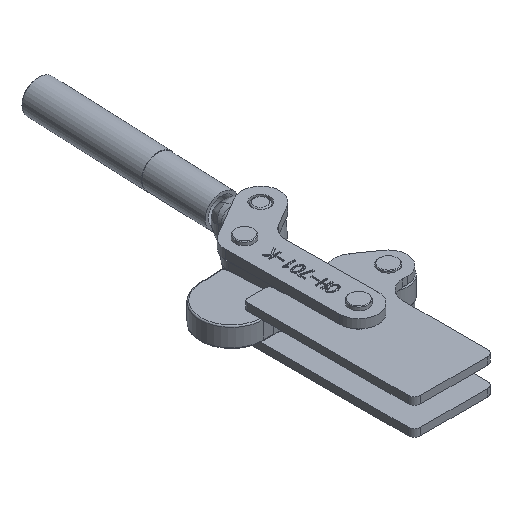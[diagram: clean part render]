
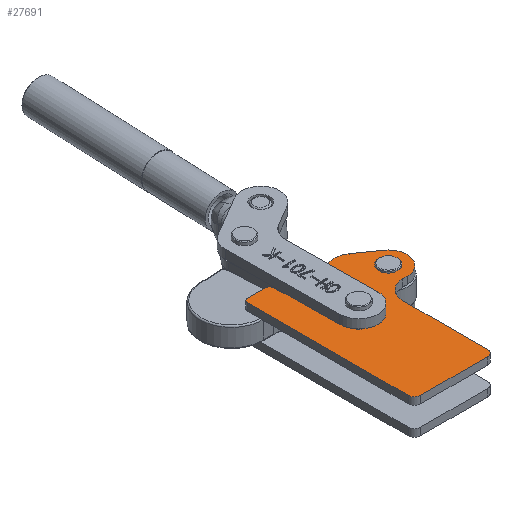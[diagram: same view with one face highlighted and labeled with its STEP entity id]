
A CAD part, isometric view. The second image highlights one B-rep face of the part: STEP entity #27691.
In plain terms, the highlighted planar face has unit normal (0, 0, 1).
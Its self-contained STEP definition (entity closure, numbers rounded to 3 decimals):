
#380=FACE_BOUND('',#4563,.T.);
#381=FACE_BOUND('',#4564,.T.);
#1243=PLANE('',#30742);
#3094=FACE_OUTER_BOUND('',#4562,.T.);
#4562=EDGE_LOOP('',(#26077,#26078,#26079,#26080,#26081,#26082,#26083,#26084,
#26085,#26086,#26087,#26088,#26089,#26090,#26091));
#4563=EDGE_LOOP('',(#26092,#26093));
#4564=EDGE_LOOP('',(#26094,#26095));
#7114=LINE('',#51165,#9682);
#7115=LINE('',#51171,#9683);
#7116=LINE('',#51175,#9684);
#7117=LINE('',#51179,#9685);
#7118=LINE('',#51183,#9686);
#7119=LINE('',#51187,#9687);
#7120=LINE('',#51190,#9688);
#9682=VECTOR('',#38890,1000.);
#9683=VECTOR('',#38895,1000.);
#9684=VECTOR('',#38898,1000.);
#9685=VECTOR('',#38901,1000.);
#9686=VECTOR('',#38904,1000.);
#9687=VECTOR('',#38907,1000.);
#9688=VECTOR('',#38910,1000.);
#11143=CIRCLE('',#30733,6.25);
#11146=CIRCLE('',#30736,6.25);
#11147=CIRCLE('',#30738,8.5);
#11150=CIRCLE('',#30741,8.5);
#11151=CIRCLE('',#30743,15.024);
#11152=CIRCLE('',#30744,16.024);
#11153=CIRCLE('',#30745,16.);
#11154=CIRCLE('',#30746,3.);
#11155=CIRCLE('',#30747,3.);
#11156=CIRCLE('',#30748,5.);
#11157=CIRCLE('',#30749,5.);
#11158=CIRCLE('',#30750,15.);
#13876=VERTEX_POINT('',#51141);
#13877=VERTEX_POINT('',#51142);
#13880=VERTEX_POINT('',#51151);
#13881=VERTEX_POINT('',#51152);
#13884=VERTEX_POINT('',#51161);
#13885=VERTEX_POINT('',#51162);
#13886=VERTEX_POINT('',#51164);
#13887=VERTEX_POINT('',#51166);
#13888=VERTEX_POINT('',#51168);
#13889=VERTEX_POINT('',#51170);
#13890=VERTEX_POINT('',#51172);
#13891=VERTEX_POINT('',#51174);
#13892=VERTEX_POINT('',#51176);
#13893=VERTEX_POINT('',#51178);
#13894=VERTEX_POINT('',#51180);
#13895=VERTEX_POINT('',#51182);
#13896=VERTEX_POINT('',#51184);
#13897=VERTEX_POINT('',#51186);
#13898=VERTEX_POINT('',#51188);
#17953=EDGE_CURVE('',#13876,#13877,#11143,.T.);
#17957=EDGE_CURVE('',#13877,#13876,#11146,.T.);
#17958=EDGE_CURVE('',#13880,#13881,#11147,.T.);
#17962=EDGE_CURVE('',#13881,#13880,#11150,.T.);
#17963=EDGE_CURVE('',#13884,#13885,#11151,.T.);
#17964=EDGE_CURVE('',#13885,#13886,#7114,.T.);
#17965=EDGE_CURVE('',#13886,#13887,#11152,.T.);
#17966=EDGE_CURVE('',#13887,#13888,#11153,.T.);
#17967=EDGE_CURVE('',#13888,#13889,#7115,.T.);
#17968=EDGE_CURVE('',#13889,#13890,#11154,.T.);
#17969=EDGE_CURVE('',#13890,#13891,#7116,.T.);
#17970=EDGE_CURVE('',#13891,#13892,#11155,.T.);
#17971=EDGE_CURVE('',#13892,#13893,#7117,.T.);
#17972=EDGE_CURVE('',#13893,#13894,#11156,.T.);
#17973=EDGE_CURVE('',#13894,#13895,#7118,.T.);
#17974=EDGE_CURVE('',#13895,#13896,#11157,.T.);
#17975=EDGE_CURVE('',#13896,#13897,#7119,.T.);
#17976=EDGE_CURVE('',#13897,#13898,#11158,.T.);
#17977=EDGE_CURVE('',#13898,#13884,#7120,.T.);
#26077=ORIENTED_EDGE('',*,*,#17963,.T.);
#26078=ORIENTED_EDGE('',*,*,#17964,.T.);
#26079=ORIENTED_EDGE('',*,*,#17965,.T.);
#26080=ORIENTED_EDGE('',*,*,#17966,.T.);
#26081=ORIENTED_EDGE('',*,*,#17967,.T.);
#26082=ORIENTED_EDGE('',*,*,#17968,.T.);
#26083=ORIENTED_EDGE('',*,*,#17969,.T.);
#26084=ORIENTED_EDGE('',*,*,#17970,.T.);
#26085=ORIENTED_EDGE('',*,*,#17971,.T.);
#26086=ORIENTED_EDGE('',*,*,#17972,.T.);
#26087=ORIENTED_EDGE('',*,*,#17973,.T.);
#26088=ORIENTED_EDGE('',*,*,#17974,.T.);
#26089=ORIENTED_EDGE('',*,*,#17975,.T.);
#26090=ORIENTED_EDGE('',*,*,#17976,.T.);
#26091=ORIENTED_EDGE('',*,*,#17977,.T.);
#26092=ORIENTED_EDGE('',*,*,#17953,.F.);
#26093=ORIENTED_EDGE('',*,*,#17957,.F.);
#26094=ORIENTED_EDGE('',*,*,#17958,.F.);
#26095=ORIENTED_EDGE('',*,*,#17962,.F.);
#27691=ADVANCED_FACE('',(#3094,#380,#381),#1243,.T.);
#30733=AXIS2_PLACEMENT_3D('',#51143,#38866,#38867);
#30736=AXIS2_PLACEMENT_3D('',#51149,#38873,#38874);
#30738=AXIS2_PLACEMENT_3D('',#51153,#38877,#38878);
#30741=AXIS2_PLACEMENT_3D('',#51159,#38884,#38885);
#30742=AXIS2_PLACEMENT_3D('',#51160,#38886,#38887);
#30743=AXIS2_PLACEMENT_3D('',#51163,#38888,#38889);
#30744=AXIS2_PLACEMENT_3D('',#51167,#38891,#38892);
#30745=AXIS2_PLACEMENT_3D('',#51169,#38893,#38894);
#30746=AXIS2_PLACEMENT_3D('',#51173,#38896,#38897);
#30747=AXIS2_PLACEMENT_3D('',#51177,#38899,#38900);
#30748=AXIS2_PLACEMENT_3D('',#51181,#38902,#38903);
#30749=AXIS2_PLACEMENT_3D('',#51185,#38905,#38906);
#30750=AXIS2_PLACEMENT_3D('',#51189,#38908,#38909);
#38866=DIRECTION('center_axis',(0.,0.,1.));
#38867=DIRECTION('ref_axis',(1.,0.,0.));
#38873=DIRECTION('center_axis',(0.,0.,1.));
#38874=DIRECTION('ref_axis',(1.,0.,0.));
#38877=DIRECTION('center_axis',(0.,0.,1.));
#38878=DIRECTION('ref_axis',(1.,0.,0.));
#38884=DIRECTION('center_axis',(0.,0.,1.));
#38885=DIRECTION('ref_axis',(1.,0.,0.));
#38886=DIRECTION('center_axis',(0.,0.,1.));
#38887=DIRECTION('ref_axis',(1.,0.,0.));
#38888=DIRECTION('center_axis',(0.,0.,1.));
#38889=DIRECTION('ref_axis',(1.,0.,0.));
#38890=DIRECTION('',(-0.819,0.573,0.));
#38891=DIRECTION('center_axis',(0.,0.,1.));
#38892=DIRECTION('ref_axis',(1.,0.,0.));
#38893=DIRECTION('center_axis',(0.,0.,-1.));
#38894=DIRECTION('ref_axis',(1.,0.,0.));
#38895=DIRECTION('',(0.,1.,0.));
#38896=DIRECTION('center_axis',(0.,0.,1.));
#38897=DIRECTION('ref_axis',(-1.,0.,0.));
#38898=DIRECTION('',(-1.,0.,0.));
#38899=DIRECTION('center_axis',(0.,0.,1.));
#38900=DIRECTION('ref_axis',(-1.,0.,0.));
#38901=DIRECTION('',(0.,-1.,0.));
#38902=DIRECTION('center_axis',(0.,0.,1.));
#38903=DIRECTION('ref_axis',(-1.,0.,0.));
#38904=DIRECTION('',(1.,0.,0.));
#38905=DIRECTION('center_axis',(0.,0.,1.));
#38906=DIRECTION('ref_axis',(1.,0.,0.));
#38907=DIRECTION('',(0.,1.,0.));
#38908=DIRECTION('center_axis',(0.,0.,-1.));
#38909=DIRECTION('ref_axis',(-1.,0.,0.));
#38910=DIRECTION('',(1.,0.,0.));
#51141=CARTESIAN_POINT('',(75.18,102.169,5.9));
#51142=CARTESIAN_POINT('',(87.68,102.169,5.9));
#51143=CARTESIAN_POINT('Origin',(81.43,102.169,5.9));
#51149=CARTESIAN_POINT('Origin',(81.43,102.169,5.9));
#51151=CARTESIAN_POINT('',(25.9,78.5,5.9));
#51152=CARTESIAN_POINT('',(42.9,78.5,5.9));
#51153=CARTESIAN_POINT('Origin',(34.4,78.5,5.9));
#51159=CARTESIAN_POINT('Origin',(34.4,78.5,5.9));
#51160=CARTESIAN_POINT('Origin',(81.43,102.169,5.9));
#51161=CARTESIAN_POINT('',(81.421,87.145,5.9));
#51162=CARTESIAN_POINT('',(90.05,114.474,5.9));
#51163=CARTESIAN_POINT('Origin',(81.43,102.169,5.9));
#51164=CARTESIAN_POINT('',(74.023,125.693,5.9));
#51165=CARTESIAN_POINT('',(74.023,125.693,5.9));
#51166=CARTESIAN_POINT('',(50.654,120.04,5.9));
#51167=CARTESIAN_POINT('Origin',(64.83,112.569,5.9));
#51168=CARTESIAN_POINT('',(20.5,127.5,5.9));
#51169=CARTESIAN_POINT('Origin',(36.5,127.5,5.9));
#51170=CARTESIAN_POINT('',(20.5,132.5,5.9));
#51171=CARTESIAN_POINT('',(20.5,132.5,5.9));
#51172=CARTESIAN_POINT('',(17.5,135.5,5.9));
#51173=CARTESIAN_POINT('Origin',(17.5,132.5,5.9));
#51174=CARTESIAN_POINT('',(3.,135.5,5.9));
#51175=CARTESIAN_POINT('',(3.,135.5,5.9));
#51176=CARTESIAN_POINT('',(0.,132.5,5.9));
#51177=CARTESIAN_POINT('Origin',(3.,132.5,5.9));
#51178=CARTESIAN_POINT('',(0.,5.,5.9));
#51179=CARTESIAN_POINT('',(0.,5.,5.9));
#51180=CARTESIAN_POINT('',(5.,0.,5.9));
#51181=CARTESIAN_POINT('Origin',(5.,5.,5.9));
#51182=CARTESIAN_POINT('',(58.,0.,5.9));
#51183=CARTESIAN_POINT('',(5.,0.,5.9));
#51184=CARTESIAN_POINT('',(63.,5.,5.9));
#51185=CARTESIAN_POINT('Origin',(58.,5.,5.9));
#51186=CARTESIAN_POINT('',(63.,72.146,5.9));
#51187=CARTESIAN_POINT('',(63.,5.,5.9));
#51188=CARTESIAN_POINT('',(78.005,87.146,5.9));
#51189=CARTESIAN_POINT('Origin',(78.,72.146,5.9));
#51190=CARTESIAN_POINT('',(81.421,87.145,5.9));
